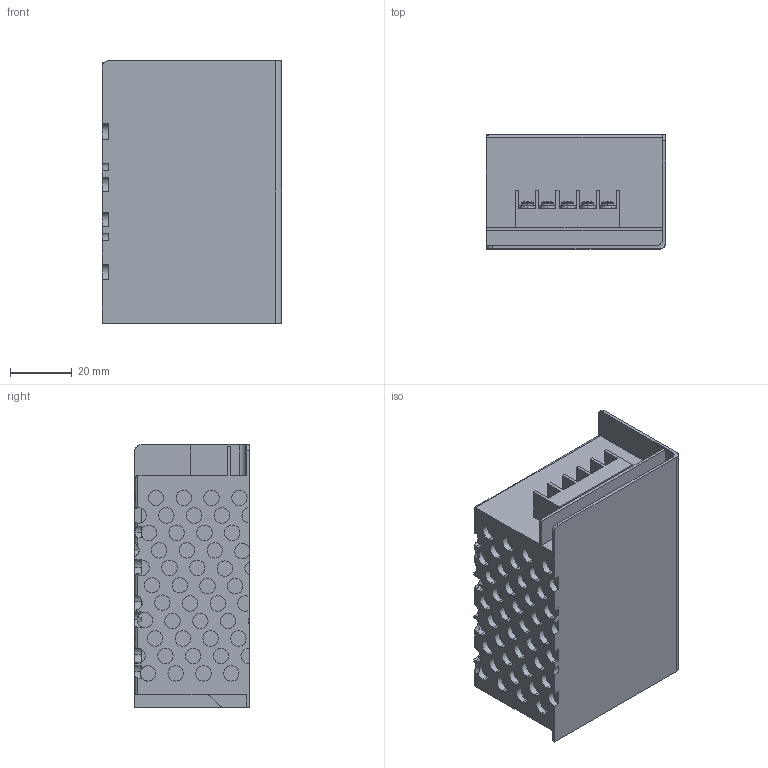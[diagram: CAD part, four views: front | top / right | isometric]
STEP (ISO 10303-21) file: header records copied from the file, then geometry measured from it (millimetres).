
FILE_DESCRIPTION (( 'STEP AP203' ), '1' );
FILE_NAME ('MS-25-12.STEP', '2020-02-26T14:02:51', ( '' ), ( '' ), 'SwSTEP 2.0', 'SolidWorks 2019', '' );
FILE_SCHEMA (( 'CONFIG_CONTROL_DESIGN' ));
Length unit declared in the file: millimetre
Products named in the file (1): MS-25-12
Bounding box: 58 x 37 x 85 mm (x, y, z)
Volume: 154257.1 mm3; surface area: 25942 mm2
Topology: 11 solids, 11 shells, 580 faces, 1319 edges, 861 vertices
Faces by surface type: cylinder 296, plane 264, torus 10, sphere 10
Entity records: 16795 total; most frequent: DIRECTION 3138, CARTESIAN_POINT 3013, ORIENTED_EDGE 2638, EDGE_CURVE 1319, AXIS2_PLACEMENT_3D 1270, VERTEX_POINT 861, EDGE_LOOP 690, CIRCLE 689
